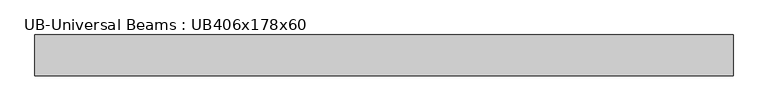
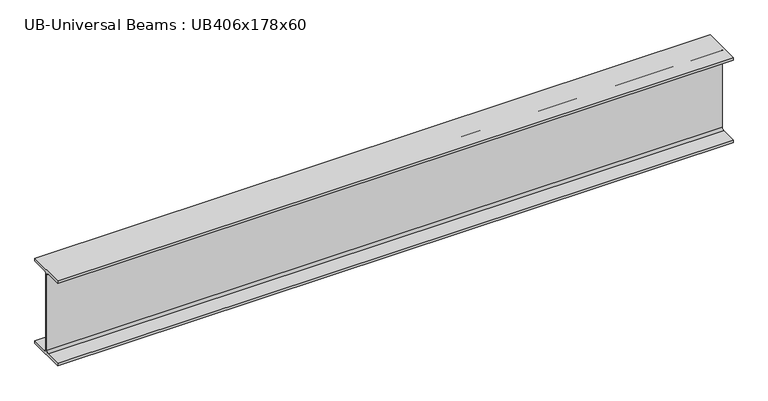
"""IFC4 building model written with IfcOpenShell, lengths in millimetres: beam geometry, UB-Universal Beams : UB406x178x60."""

from ifc_helpers import new_model, si_unit, point, frame, frame_2d, origin, place, context, project, spatial, polyline, circle_curve, trimmed, segment, composite_curve, outline, extrude, source, transform, mapped, element, save


def ub_universal_beams_ub406x178x60_065d8e95(model_context):
    return source(origin(), model_context, "Body", "SweptSolid", [
        extrude(outline(composite_curve([segment(polyline([(88.95, -190.4), (88.95, -203.2), (-88.95, -203.2), (-88.95, -190.4), (-14.15, -190.4)]), True, "CONTINUOUS"), segment(trimmed(circle_curve(frame_2d((-14.15, -180.2)), 10.2), [point((-14.15, -190.4))], [point((-3.95, -180.2))], True, "CARTESIAN"), True, "CONTINUOUS"), segment(polyline([(-3.95, -180.2), (-3.95, 180.2)]), True, "CONTINUOUS"), segment(trimmed(circle_curve(frame_2d((-14.15, 180.2)), 10.2), [point((-3.95, 180.2))], [point((-14.15, 190.4))], True, "CARTESIAN"), True, "CONTINUOUS"), segment(polyline([(-14.15, 190.4), (-88.95, 190.4), (-88.95, 203.2), (88.95, 203.2), (88.95, 190.4), (14.15, 190.4)]), True, "CONTINUOUS"), segment(trimmed(circle_curve(frame_2d((14.15, 180.2)), 10.2), [point((14.15, 190.4))], [point((3.95, 180.2))], True, "CARTESIAN"), True, "CONTINUOUS"), segment(polyline([(3.95, 180.2), (3.95, -180.2)]), True, "CONTINUOUS"), segment(trimmed(circle_curve(frame_2d((14.15, -180.2)), 10.2), [point((3.95, -180.2))], [point((14.15, -190.4))], True, "CARTESIAN"), True, "CONTINUOUS"), segment(polyline([(14.15, -190.4), (88.95, -190.4)]), True, "CONTINUOUS")], self_intersect=False)), frame((-1509.6, 0.0, 0.0), z_axis=(1.0, 0.0, 0.0), x_axis=(0.0, 1.0, 0.0)), (0.0, 0.0, 1.0), 3044.3),
    ])


if __name__ == "__main__":
    model = new_model("IFC4")
    model_context = context("Model", 3, world=origin())
    ifc_project = project(units=[si_unit("LENGTHUNIT", "METRE", prefix="MILLI")], contexts=[model_context])
    site = spatial("IfcSite", under=ifc_project)
    building = spatial("IfcBuilding", under=site)
    placement = place(None, origin())
    ub_universal_beams_ub406x178x60_shape = ub_universal_beams_ub406x178x60_065d8e95(model_context)
    element("IfcBeam", 1, ObjectType="UB-Universal Beams : UB406x178x60", at=placement, inside=building, context=model_context, shape_type="MappedRepresentation", body=[
        mapped(ub_universal_beams_ub406x178x60_shape, transform((0.0, 0.0, 0.0), x_axis=(1.0, 0.0, 0.0), y_axis=(0.0, 1.0, 0.0), z_axis=(0.0, 0.0, 1.0))),
    ])
    save(model, "model.ifc")
